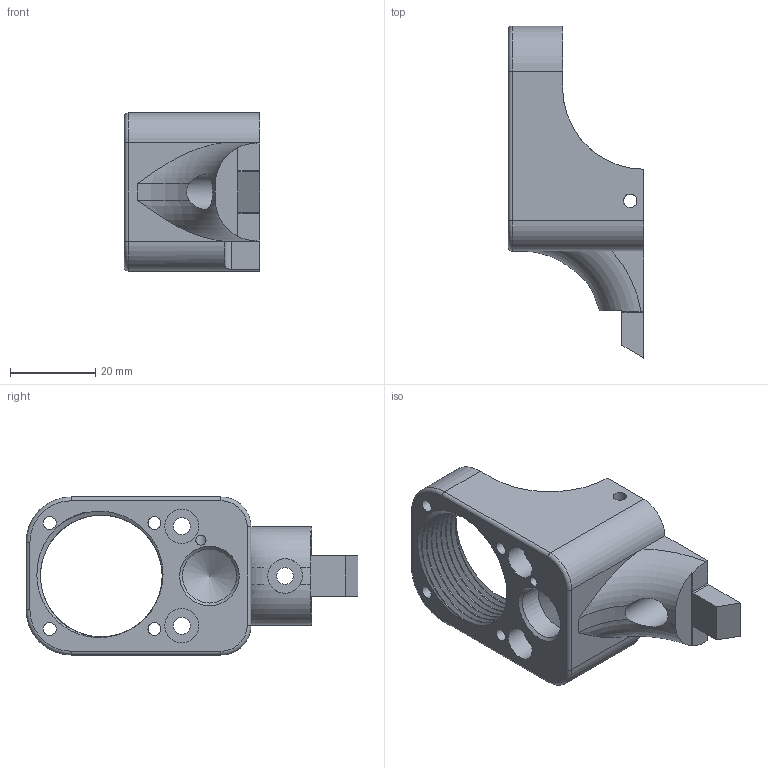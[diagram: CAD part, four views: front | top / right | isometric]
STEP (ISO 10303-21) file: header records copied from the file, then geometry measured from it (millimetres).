
FILE_DESCRIPTION(/* description */ (' '),/* implementation_level */ '2;1');
FILE_NAME(/* name */ 'D:\~~GatCad\Printable Projects\AR15000\STEP\Buffer Tower.stp',/* time_stamp */ '2019-07-22T21:10:59-05:00',/* author */ ('johne'),/* organization */ (' '),/* preprocessor_version */ 'ST-DEVELOPER v16.13',/* originating_system */ 'Autodesk Inventor 2018',/* authorisation */ ' ');
FILE_SCHEMA (('AUTOMOTIVE_DESIGN { 1 0 10303 214 3 1 1 }'));
Length unit declared in the file: inch
Products named in the file (1): Buffer Tower
Bounding box: 31.83 x 77.95 x 37.13 mm (x, y, z)
Volume: 28677.8 mm3; surface area: 12984.1 mm2
Topology: 1 solids, 1 shells, 111 faces, 314 edges, 205 vertices
Faces by surface type: cylinder 47, bspline 28, plane 25, torus 8, cone 3
Full cylindrical faces by diameter (mm): 2.388 x1, 3.023 x4, 3.175 x2, 3.937 x3, 6.477 x1, 8.001 x2, 8.128 x1, 12.7 x1
Entity records: 5384 total; most frequent: CARTESIAN_POINT 2766, ORIENTED_EDGE 576, DIRECTION 473, EDGE_CURVE 288, AXIS2_PLACEMENT_3D 202, VERTEX_POINT 197, EDGE_LOOP 151, FACE_OUTER_BOUND 111
